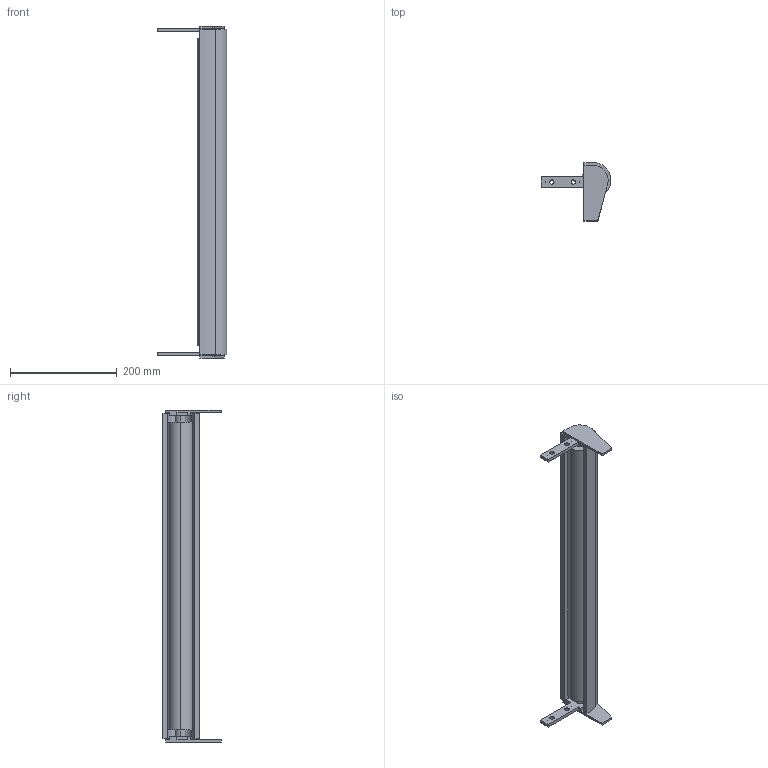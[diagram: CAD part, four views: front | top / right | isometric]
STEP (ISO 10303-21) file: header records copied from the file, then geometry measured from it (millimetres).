
FILE_DESCRIPTION (( 'STEP AP214' ), '1' );
FILE_NAME ('FS-160-MTS-100.ALU omloop 620.STEP', '2017-02-08T12:08:19', ( '' ), ( '' ), 'SwSTEP 2.0', 'SolidWorks 2016', '' );
FILE_SCHEMA (( 'AUTOMOTIVE_DESIGN' ));
Length unit declared in the file: millimetre
Products named in the file (1): FS-160-MTS-100.ALU omloop 620
Bounding box: 130.3 x 109 x 621 mm (x, y, z)
Volume: 1657932.1 mm3; surface area: 277550.3 mm2
Topology: 2 solids, 2 shells, 70 faces, 186 edges, 124 vertices
Faces by surface type: cylinder 36, plane 34
Entity records: 2277 total; most frequent: DIRECTION 400, CARTESIAN_POINT 381, ORIENTED_EDGE 372, EDGE_CURVE 186, AXIS2_PLACEMENT_3D 143, VERTEX_POINT 124, LINE 114, VECTOR 114
